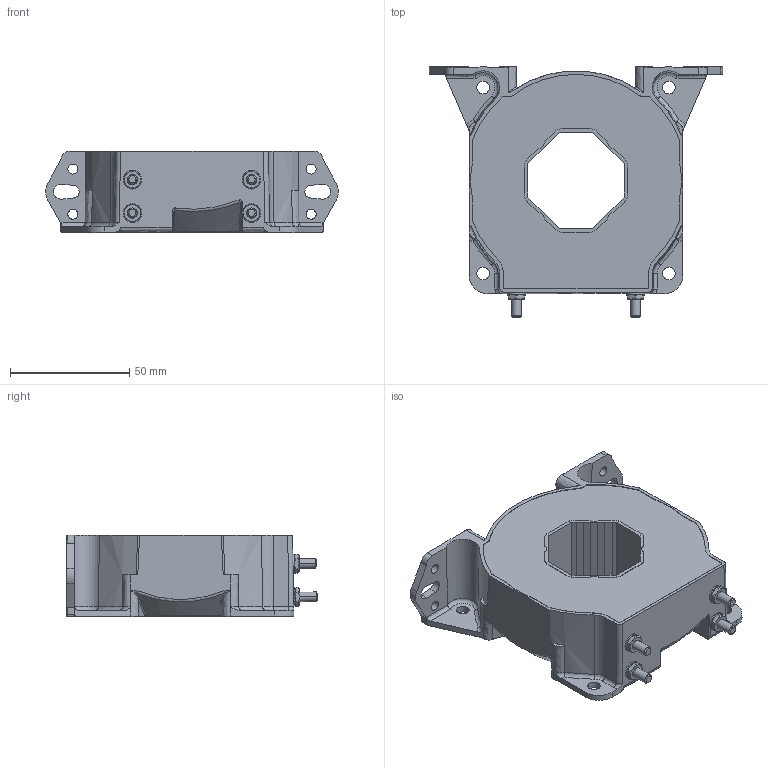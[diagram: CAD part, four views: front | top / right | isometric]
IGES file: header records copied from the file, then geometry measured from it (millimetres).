
Start section: Elysium IGES Interface
Global section: file name: \\Gva50\sd-data\Etudes\GVu\BLACK BOX\LF 1005-S\LF 1005-S_SP33_Blackbox\LF 1005-S_SP33_Blackbox.igs; native system: SolidDesigner 16.00A  16-Aug-2008; preprocessor: CoCreate IGES_3D V2.2; author: Unknown; organization: Unknown; date: 20090526.115345; units: millimetre
Bounding box: 123 x 105.28 x 34.3 mm (x, y, z)
Volume: 203329.5 mm3; surface area: 38800.1 mm2
Topology: 13 solids, 18 shells, 1215 faces, 3176 edges, 2065 vertices
Faces by surface type: bspline 1215
